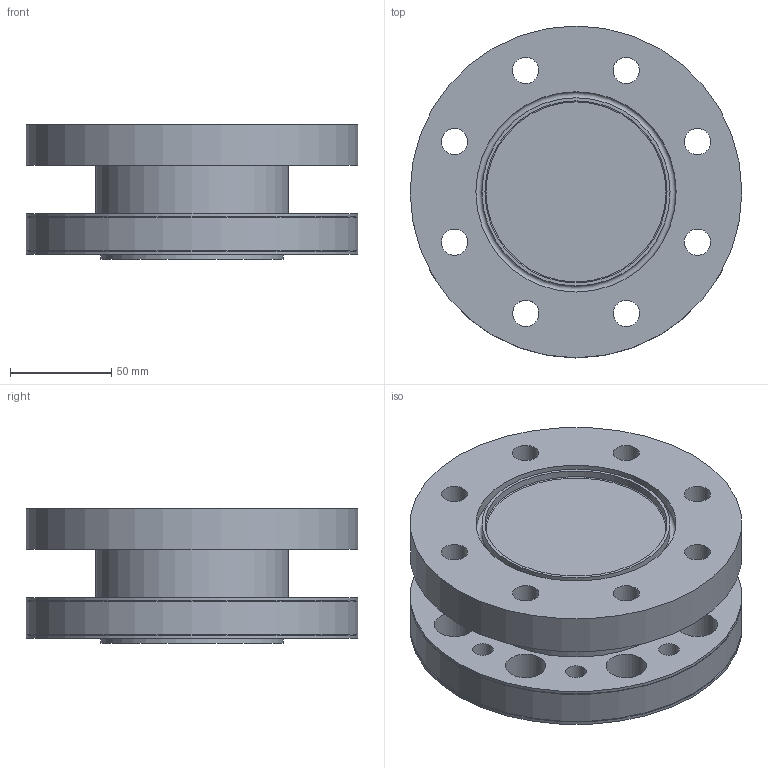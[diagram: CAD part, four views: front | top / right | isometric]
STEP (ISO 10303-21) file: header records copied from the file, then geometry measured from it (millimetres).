
FILE_DESCRIPTION(/* description */ (''),/* implementation_level */ '2;1');
FILE_NAME(/* name */ 'F:\Sensorik\Standard_Messflansche\XtreMA_NEW\Fertigung\BG3\XtreMA_BG3_NEW_V.stp',/* time_stamp */ '2022-01-26T09:55:15+01:00',/* author */ ('Lander'),/* organization */ (''),/* preprocessor_version */ 'ST-DEVELOPER v18.1',/* originating_system */ 'Autodesk Inventor 2021',/* authorisation */ '');
FILE_SCHEMA (('AUTOMOTIVE_DESIGN { 1 0 10303 214 3 1 1 }'));
Length unit declared in the file: millimetre
Products named in the file (1): XtreMA_BG2_500Nm_HBM
Bounding box: 164 x 164 x 66.5 mm (x, y, z)
Volume: 892469.4 mm3; surface area: 126688.3 mm2
Topology: 1 solids, 1 shells, 54 faces, 134 edges, 88 vertices
Faces by surface type: cylinder 37, plane 8, torus 7, cone 2
Full cylindrical faces by diameter (mm): 10.106 x8, 13 x8, 20 x8, 90 x2, 91 x1, 93 x1, 95 x1, 97 x1, 99 x1, 103 x2, 163.8 x1, 164 x3
Entity records: 1810 total; most frequent: DIRECTION 339, CARTESIAN_POINT 277, ORIENTED_EDGE 268, AXIS2_PLACEMENT_3D 150, EDGE_CURVE 134, EDGE_LOOP 108, CIRCLE 95, VERTEX_POINT 88
